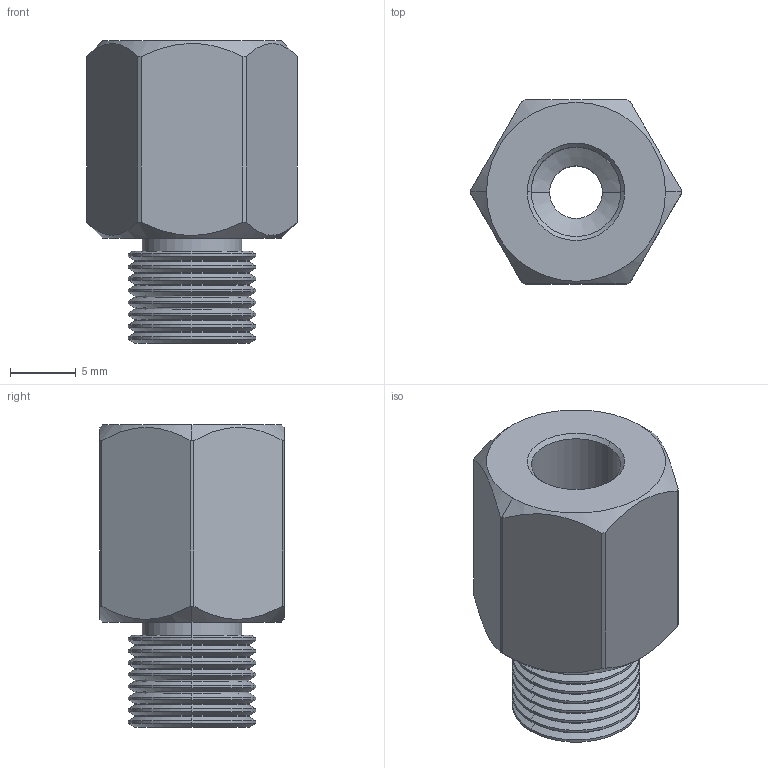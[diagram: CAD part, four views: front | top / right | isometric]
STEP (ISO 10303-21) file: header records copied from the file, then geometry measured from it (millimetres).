
FILE_DESCRIPTION (( 'STEP AP214' ), '1' );
FILE_NAME ('VM-G18M-M8F.STEP', '2023-03-06T03:34:36', ( 'Windows User' ), ( 'P R C' ), 'SwSTEP 2.0', 'SolidWorks 2019', '' );
FILE_SCHEMA (( 'AUTOMOTIVE_DESIGN' ));
Length unit declared in the file: millimetre
Products named in the file (1): VM-G18M-M8F
Bounding box: 16 x 14 x 23 mm (x, y, z)
Volume: 2436.8 mm3; surface area: 1783.1 mm2
Topology: 1 solids, 1 shells, 95 faces, 203 edges, 112 vertices
Faces by surface type: cylinder 43, cone 42, plane 10
Entity records: 2709 total; most frequent: CARTESIAN_POINT 567, DIRECTION 483, ORIENTED_EDGE 406, EDGE_CURVE 203, AXIS2_PLACEMENT_3D 196, VERTEX_POINT 112, CIRCLE 100, EDGE_LOOP 99
